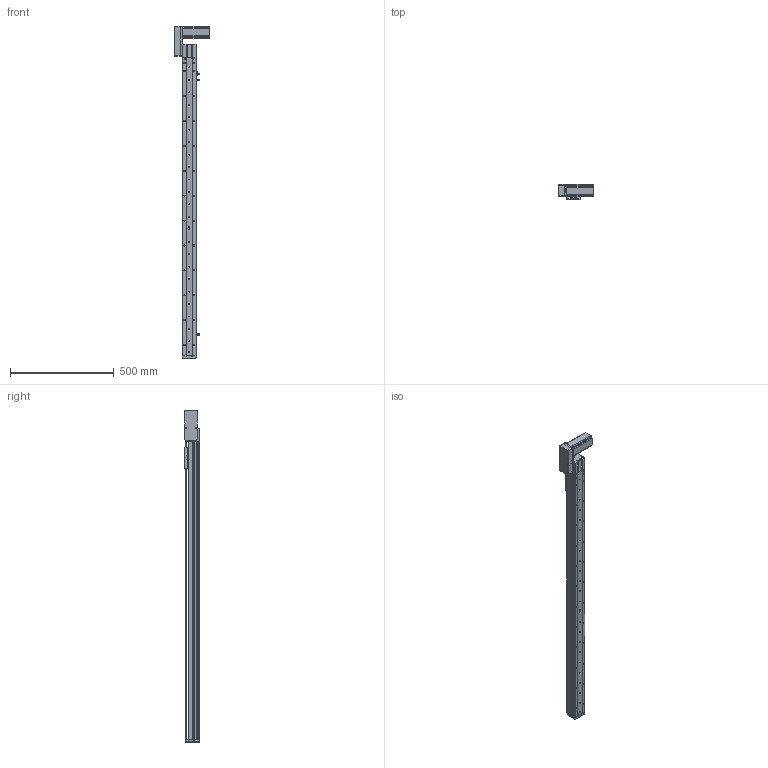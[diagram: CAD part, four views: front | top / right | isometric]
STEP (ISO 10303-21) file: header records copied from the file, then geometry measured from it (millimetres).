
FILE_DESCRIPTION (( 'STEP AP214' ), '1' );
FILE_NAME ('KSD68BS-S1250-MRB-CM.STEP', '2019-11-06T07:57:04', ( '微软用户' ), ( '微软中国' ), 'SwSTEP 2.0', 'SolidWorks 2014', '' );
FILE_SCHEMA (( 'AUTOMOTIVE_DESIGN' ));
Length unit declared in the file: millimetre
Products named in the file (11): 悵誘欶奻狟殏; 68宽马达安装板连板上折同步带; 68宽单导轨半封闭同步带主动轮座右; 68单导轨同步带半封闭端板; KSD68BS 1250俴最裔啣圉猾敕; 覜茼え68遵圉猾敕; KSD68BS半封闭同步带传动导轨座; U倰嫖萇EEㄜSX672; 台达ECMA－C20604AS伺服电机（400W); KSD68BS 1250俴最菁啣圉猾敕; KSD68BS-S1250-MRB-CM
Assembly tree (12 placements, depth 2):
  KSD68BS-S1250-MRB-CM
    KSD68BS 1250俴最菁啣圉猾敕
    台达ECMA－C20604AS伺服电机（400W)
    U倰嫖萇EEㄜSX672  x3
    KSD68BS半封闭同步带传动导轨座
    覜茼え68遵圉猾敕
    KSD68BS 1250俴最裔啣圉猾敕
    68单导轨同步带半封闭端板
    68宽单导轨半封闭同步带主动轮座右
    68宽马达安装板连板上折同步带
    悵誘欶奻狟殏
Bounding box: 167.2 x 70.5 x 1599.5 mm (x, y, z)
Volume: 2685416.7 mm3; surface area: 971746.1 mm2
Topology: 13 solids, 13 shells, 1504 faces, 4374 edges, 2848 vertices
Faces by surface type: cylinder 776, plane 645, cone 83
Entity records: 57433 total; most frequent: CARTESIAN_POINT 11358, ORIENTED_EDGE 7500, DIRECTION 7306, EDGE_CURVE 3750, AXIS2_PLACEMENT_3D 2628, VERTEX_POINT 2472, VECTOR 2050, LINE 2050
